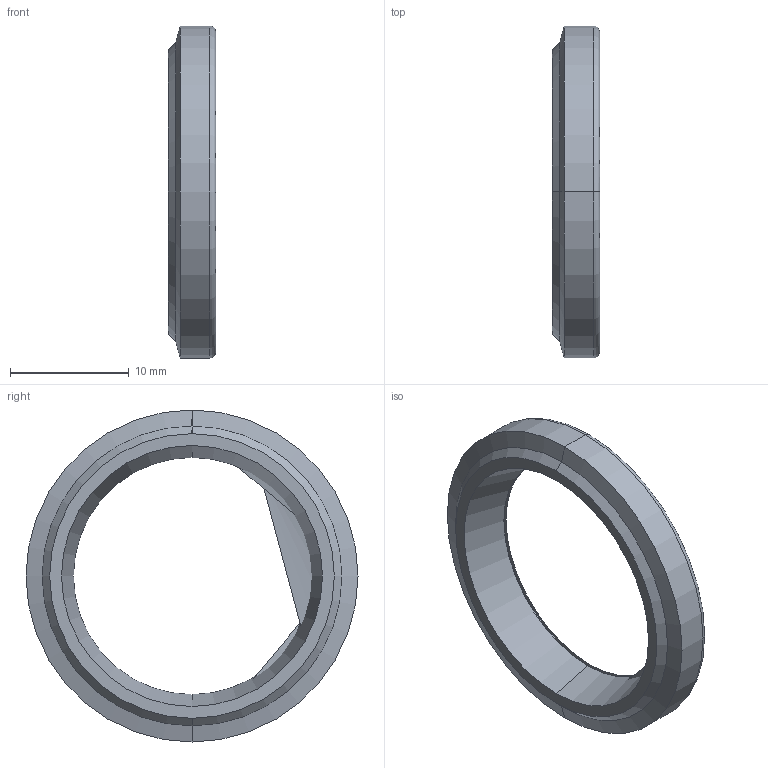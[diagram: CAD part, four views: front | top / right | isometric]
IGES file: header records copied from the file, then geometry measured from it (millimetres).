
Start section: 3D InterOp IGES (Version 21 0 1), Spatial Corp. Copyright (c) 1999-2007.
Global section: file name: CBX-20.igs; native system: Spatial Corp.; preprocessor: 3D InterOp GENERIC/IGES 3.0; author: Noname; organization: Noname; date: 20220217.161939; units: millimetre
Bounding box: 4 x 28 x 28 mm (x, y, z)
Surface area: 1135.9 mm2 (no closed solid volume)
Topology: 0 solids, 0 shells, 20 faces, 80 edges, 80 vertices
Faces by surface type: revolution 16, extrusion 4
